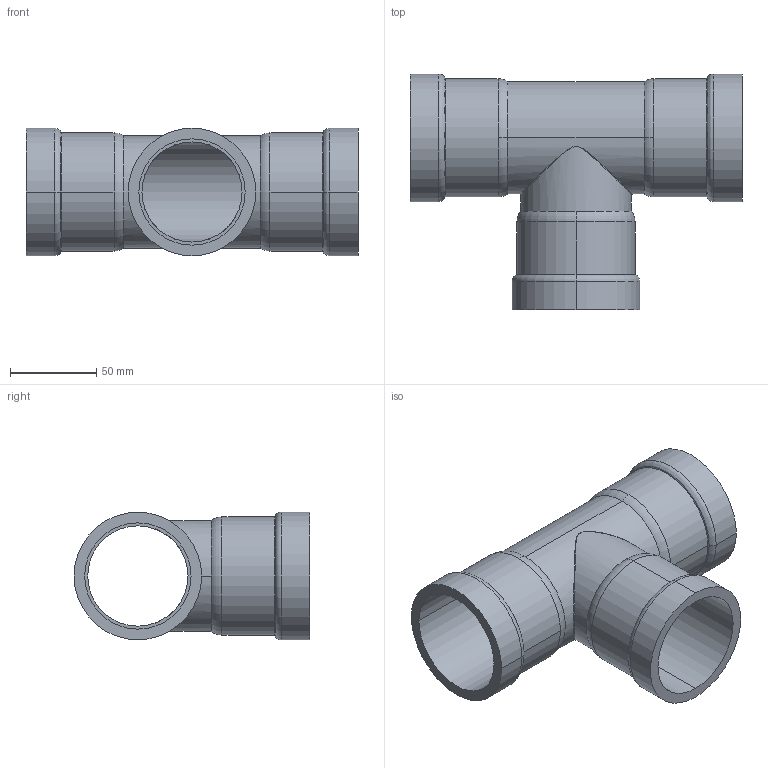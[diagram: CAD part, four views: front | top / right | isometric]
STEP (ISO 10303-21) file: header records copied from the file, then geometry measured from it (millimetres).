
FILE_DESCRIPTION(('Creo Elements/Direct Modeling STEP Export'),'2;1');
FILE_NAME('C9414_2.stp','2020-07-14T16:57:39',(''),(''),'PTC Creo Elements/Direct Modeling STEP processor for AP214 (Solid Model)','PTC Creo Elements/Direct Modeling 19.0C 15-Aug-2015 (C) Parametric Technology GmbH','');
FILE_SCHEMA(('AUTOMOTIVE_DESIGN { 1 0 10303 214 1 1 1 1 }'));
Length unit declared in the file: millimetre
Products named in the file (2): 9414_2
Assembly tree (1 placements, depth 2):
  9414_2
    9414_2
Bounding box: 192.02 x 136.42 x 73.8 mm (x, y, z)
Volume: 208046.9 mm3; surface area: 107756.4 mm2
Topology: 1 solids, 1 shells, 54 faces, 124 edges, 76 vertices
Faces by surface type: cylinder 26, torus 12, plane 6, cone 6, bspline 4
Entity records: 7692 total; most frequent: CARTESIAN_POINT 6559, ORIENTED_EDGE 248, DIRECTION 214, EDGE_CURVE 124, AXIS2_PLACEMENT_3D 91, VERTEX_POINT 76, EDGE_LOOP 62, FACE_OUTER_BOUND 54
